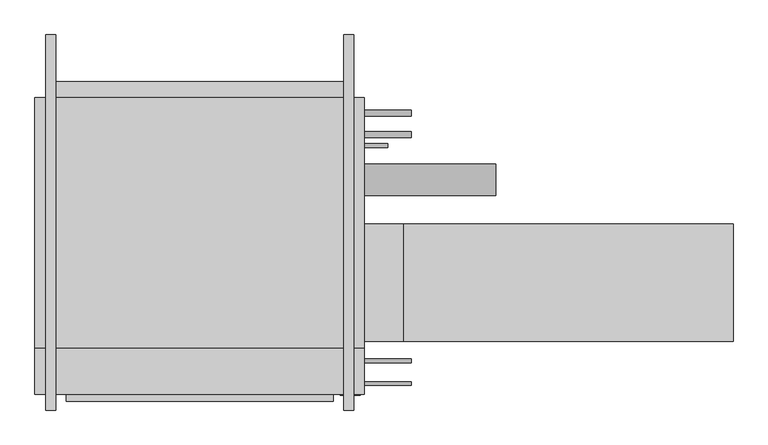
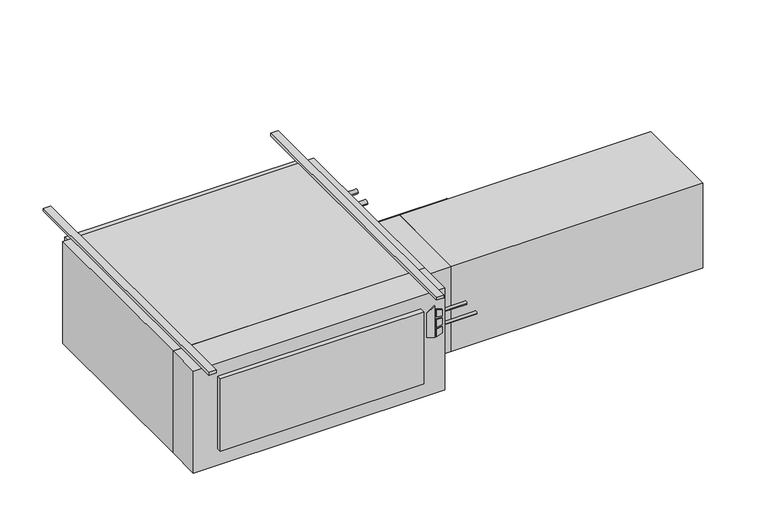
"""IFC4 building model written with IfcOpenShell, lengths in millimetres: proxy geometry."""

from ifc_helpers import new_model, si_unit, point, frame, frame_2d, origin, origin_with_axes, place, context, project, spatial, polyline, circle_curve, trimmed, segment, composite_curve, outline, extrude, source, transform, mapped, element, save


def mechanical_equipment_ea369ea6(model_context):
    return source(origin(), model_context, "Body", "SweptSolid", [
        extrude(outline(polyline([(-193.2519297, 608.0868862), (-203.2, 640.2602728), (-61.0290756, 640.2602728), (-84.0510817, 608.0868862), (-193.2519297, 608.0868862)])), frame((0.0, -797.052, 0.0), z_axis=(0.0, 1.0, 0.0), x_axis=(0.0, 0.0, 1.0)), (0.0, 0.0, 1.0), 3.175),
        extrude(outline(polyline([(-114.2526443, 647.0186058), (-117.4550368, 673.1), (-88.2261958, 673.1), (-80.1617807, 647.0186058), (-114.2526443, 647.0186058)])), frame((0.0, -797.052, 0.0), z_axis=(0.0, 1.0, 0.0), x_axis=(0.0, 0.0, 1.0)), (0.0, 0.0, 1.0), 3.175),
        extrude(outline(polyline([(-166.1161712, 673.1), (-169.7816721, 647.0186058), (-203.2, 647.0186058), (-194.5657628, 673.1), (-166.1161712, 673.1)])), frame((0.0, -797.052, 0.0), z_axis=(0.0, 1.0, 0.0), x_axis=(0.0, 0.0, 1.0)), (0.0, 0.0, 1.0), 3.175),
        extrude(outline(polyline([(-126.8010097, 673.1), (-124.5191834, 647.0186058), (-160.4567319, 647.0186058), (-157.7154669, 673.1), (-126.8010097, 673.1)])), frame((0.0, -797.052, 0.0), z_axis=(0.0, 1.0, 0.0), x_axis=(0.0, 0.0, 1.0)), (0.0, 0.0, 1.0), 3.175),
        extrude(outline(polyline([(685.8, -793.877), (-381.0, -793.877), (-381.0, -644.525), (685.8, -644.525), (685.8, -793.877)])), frame((0.0, 0.0, -457.2), z_axis=(0.0, 0.0, 1.0), x_axis=(1.0, 0.0, 0.0)), (0.0, 0.0, 1.0), 457.2),
        extrude(outline(polyline([(584.2, -816.229), (-279.4, -816.229), (-279.4, -793.877), (584.2, -793.877), (584.2, -816.229)])), frame((0.0, 0.0, -381.0), z_axis=(0.0, 0.0, 1.0), x_axis=(1.0, 0.0, 0.0)), (0.0, 0.0, 1.0), 323.85),
        extrude(outline(polyline([(1879.6, -241.3), (1879.6, -622.3), (812.8, -622.3), (812.8, -241.3), (1879.6, -241.3)])), frame((0.0, 0.0, -431.8), z_axis=(0.0, 0.0, 1.0), x_axis=(1.0, 0.0, 0.0)), (0.0, 0.0, 1.0), 381.0),
        extrude(outline(polyline([(812.8, -241.3), (812.8, -622.3), (685.8, -622.3), (685.8, -241.3), (812.8, -241.3)])), frame((0.0, 0.0, -431.8), z_axis=(0.0, 0.0, 1.0), x_axis=(1.0, 0.0, 0.0)), (0.0, 0.0, 1.0), 381.0),
        extrude(outline(composite_curve([segment(trimmed(circle_curve(frame_2d((-758.825, -184.15)), 6.35), [point((-752.475, -184.15))], [point((-765.175, -184.15))], False, "CARTESIAN"), True, "CONTINUOUS"), segment(trimmed(circle_curve(frame_2d((-758.825, -184.15)), 6.35), [point((-765.175, -184.15))], [point((-752.475, -184.15))], False, "CARTESIAN"), True, "CONTINUOUS")], self_intersect=False)), frame((685.8, 0.0, 0.0), z_axis=(1.0, 0.0, 0.0), x_axis=(0.0, 1.0, 0.0)), (0.0, 0.0, 1.0), 152.4),
        extrude(outline(composite_curve([segment(trimmed(circle_curve(frame_2d((-685.8, -184.15)), 6.35), [point((-679.45, -184.15))], [point((-692.15, -184.15))], False, "CARTESIAN"), True, "CONTINUOUS"), segment(trimmed(circle_curve(frame_2d((-685.8, -184.15)), 6.35), [point((-692.15, -184.15))], [point((-679.45, -184.15))], False, "CARTESIAN"), True, "CONTINUOUS")], self_intersect=False)), frame((685.8, 0.0, 0.0), z_axis=(1.0, 0.0, 0.0), x_axis=(0.0, 1.0, 0.0)), (0.0, 0.0, 1.0), 152.4),
        extrude(outline(composite_curve([segment(trimmed(circle_curve(frame_2d((117.475, -171.45)), 9.525), [point((127.0, -171.45))], [point((107.95, -171.45))], False, "CARTESIAN"), True, "CONTINUOUS"), segment(trimmed(circle_curve(frame_2d((117.475, -171.45)), 9.525), [point((107.95, -171.45))], [point((127.0, -171.45))], False, "CARTESIAN"), True, "CONTINUOUS")], self_intersect=False)), frame((685.8, 0.0, 0.0), z_axis=(1.0, 0.0, 0.0), x_axis=(0.0, 1.0, 0.0)), (0.0, 0.0, 1.0), 152.4),
        extrude(outline(composite_curve([segment(trimmed(circle_curve(frame_2d((47.625, -177.8)), 9.525), [point((57.15, -177.8))], [point((38.1, -177.8))], False, "CARTESIAN"), True, "CONTINUOUS"), segment(trimmed(circle_curve(frame_2d((47.625, -177.8)), 9.525), [point((38.1, -177.8))], [point((57.15, -177.8))], False, "CARTESIAN"), True, "CONTINUOUS")], self_intersect=False)), frame((685.8, 0.0, 0.0), z_axis=(1.0, 0.0, 0.0), x_axis=(0.0, 1.0, 0.0)), (0.0, 0.0, 1.0), 152.4),
        extrude(outline(composite_curve([segment(trimmed(circle_curve(frame_2d((-98.4896516, -228.6360165)), 50.8), [point((-47.6896516, -228.6360165))], [point((-149.2896516, -228.6360165))], False, "CARTESIAN"), True, "CONTINUOUS"), segment(trimmed(circle_curve(frame_2d((-98.4896516, -228.6360165)), 50.8), [point((-149.2896516, -228.6360165))], [point((-47.6896516, -228.6360165))], False, "CARTESIAN"), True, "CONTINUOUS")], self_intersect=False)), frame((685.8, 0.0, 0.0), z_axis=(1.0, 0.0, 0.0), x_axis=(0.0, 1.0, 0.0)), (0.0, 0.0, 1.0), 425.45),
        extrude(outline(composite_curve([segment(trimmed(circle_curve(frame_2d((12.7, -409.575)), 6.35), [point((19.05, -409.575))], [point((6.35, -409.575))], False, "CARTESIAN"), True, "CONTINUOUS"), segment(trimmed(circle_curve(frame_2d((12.7, -409.575)), 6.35), [point((6.35, -409.575))], [point((19.05, -409.575))], False, "CARTESIAN"), True, "CONTINUOUS")], self_intersect=False)), frame((685.8, 0.0, 0.0), z_axis=(1.0, 0.0, 0.0), x_axis=(0.0, 1.0, 0.0)), (0.0, 0.0, 1.0), 76.2),
        extrude(outline(polyline([(685.8, 168.275), (685.8, -644.525), (-381.0, -644.525), (-381.0, 168.275), (685.8, 168.275)])), frame((0.0, 0.0, -457.2), z_axis=(0.0, 0.0, 1.0), x_axis=(1.0, 0.0, 0.0)), (0.0, 0.0, 1.0), 457.2),
        extrude(outline(polyline([(-342.9, 219.075), (647.7, 219.075), (647.7, 168.275), (-342.9, 168.275), (-342.9, 219.075)])), frame((0.0, 0.0, -381.0), z_axis=(0.0, 0.0, 1.0), x_axis=(1.0, 0.0, 0.0)), (0.0, 0.0, 1.0), 355.6),
        extrude(outline(polyline([(-314.325, 371.475), (-314.325, -844.677), (-346.075, -844.677), (-346.075, 371.475), (-314.325, 371.475)])), origin_with_axes(), (0.0, 0.0, 1.0), 12.7),
        extrude(outline(polyline([(650.875, 371.475), (650.875, -844.677), (619.125, -844.677), (619.125, 371.475), (650.875, 371.475)])), origin_with_axes(), (0.0, 0.0, 1.0), 12.7),
    ])


if __name__ == "__main__":
    model = new_model("IFC4")
    model_context = context("Model", 3, world=origin())
    ifc_project = project(units=[si_unit("LENGTHUNIT", "METRE", prefix="MILLI")], contexts=[model_context])
    site = spatial("IfcSite", under=ifc_project)
    building = spatial("IfcBuilding", under=site)
    placement = place(None, origin())
    mechanical_equipment_shape = mechanical_equipment_ea369ea6(model_context)
    element("IfcBuildingElementProxy", 1, Name="High_Capacity_Horizontal_Cabinet_Fan_Coil_Unit_-_HTY_-_IEC_-_4-Pipe_RH Side_2022 : Size 14 - 115v/60Hz/1Ph - 4/1 Coil - 4\" AirIn", ObjectType="High_Capacity_Horizontal_Cabinet_Fan_Coil_Unit_-_HTY_-_IEC_-_4-Pipe_RH Side_2022 : Size 14 - 115v/60Hz/1Ph - 4/1 Coil - 4\" AirIn", at=placement, inside=building, context=model_context, shape_type="MappedRepresentation", body=[
        mapped(mechanical_equipment_shape, transform((0.0, 0.0, 0.0), x_axis=(1.0, 0.0, 0.0), y_axis=(0.0, 1.0, 0.0), z_axis=(0.0, 0.0, 1.0))),
    ])
    save(model, "model.ifc")
